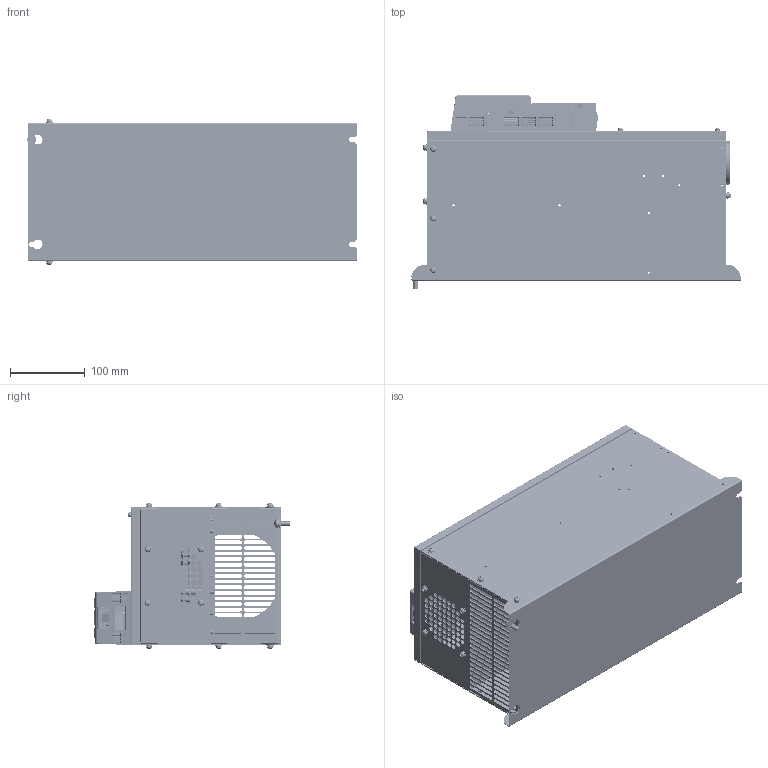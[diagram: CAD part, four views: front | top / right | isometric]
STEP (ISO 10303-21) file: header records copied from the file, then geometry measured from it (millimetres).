
FILE_DESCRIPTION (( 'STEP AP214' ), '1' );
FILE_NAME ('H120-18.5-30kw.STEP', '2022-12-07T08:32:31', ( '微软用户' ), ( '微软中国' ), 'SwSTEP 2.0', 'SolidWorks 2018', '' );
FILE_SCHEMA (( 'AUTOMOTIVE_DESIGN' ));
Length unit declared in the file: millimetre
Products named in the file (76): 覆铝锌板M4XH12的塑胶柱-20191122 - 副本; 葡臏郈啣M4X8腔蹟隊-1-20191122; 樟萇ん; 覆铝锌板M4压铆螺母-20191122_M4压铆螺母; M4XH17腔呿蝶翐; 覆铝锌板风扇组件-24v-20191122; 菁釱2019506; 覆铝锌板风扇固定件-120x120-20191122; m6x16坋趼攫芛蹟隊; ｸｲﾂﾁﾐｿｰ蠶ﾝｶ､-ｷ酲ﾈ-20191122; 蛹諉睫瘍; 菁啣-2019032220190328; 覆铝锌板风道板组件-20200326; 狟傷赽啣2; 覆铝锌板GB823-88十字槽小盘头螺钉M5×12-20191122; 偌瑩瑩攫郪璃-led-2-20190506; 偌瑩瑩攫郪璃-2019031920190328; m4x5籵謂揤穩蹟譫翐; 模具最新更改-卢工-2018031820190328; cross recessed pan head screws gb_GB_CROSS_SCREWS_TYPE1 M6X8-8  H type-S; 寡蝶-20200107; LED偌瑩諷秶啣; PLTBH1.5-3.5-4PIN; m5揤穩櫅譫; JIANPANZUOGAI_4-2018031820190328-002; 覆铝锌板风扇卡槽组件-20191122; LED囀褲俋諶-20190506; ﾓ鋧ｿ LCDﾆﾁ; M4压铆螺母_M4压铆螺母; 覆铝锌板风扇卡槽1-20191122; LED偌瑩諷秶啣-LCD-2-20190506; 黃蕾そ-201904119; 覆铝锌板m4x31盲孔压铆螺母柱-20191122; hex nuts, style 1-grades ab gb_GB_FASTENER_NUT_SNAB1 M4-S; 泂え厙諳-20190506; pan head cross recess screw_iso_ISO 7045 - M2 x 8 - Z - 8N; 覆铝锌板m4x17盲孔压铆螺母柱-20191122; 葡臏郈啣M4X35蹟隊-20191122; M3X3mm腔肣蹟譫-耀撿-led-2-20190506; 諷秶啣郪璃4-20190309-2019031920190328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
Assembly tree (150 placements, depth 4):
  H120-18.5-30kw
    覆铝锌板机箱焊件装配体-20191122
      翋眊极
        葡臏郈啣儂眊01-18.5-30kw-20191122
        覆铝锌板M3压铆螺母-20191122_M4压铆螺母  x4
      覆铝锌板风道板组件-20200326
        葡臏郈啣瑞耋啣-18.5-30kw-20191122
        覆铝锌板m4x17盲孔压铆螺母柱-20191122  x2
        覆铝锌板m4x31盲孔压铆螺母柱-20191122  x2
        M4压铆螺母_M4压铆螺母  x2
        m5揤穩櫅譫  x2
        m4x5籵謂揤穩蹟譫翐  x2
      瑞圮假蚾啣郪璃
        覆铝锌板风扇固定件-120x120-20191122
        覆铝锌板M4压铆螺母-20191122_M4压铆螺母  x4
      葡臏郈啣結瑞え-20191122
      葡臏郈啣崨盄鎢-20191122
      傷赽啣盓傅殤  x2
        傷赽啣盓傅殤
        M4压铆螺母_M4压铆螺母
    狟裔啣爾璃
      葡臏郈啣裔2-18.5-30kw-20191122
      藷裔啣喲啣
    堤瑞啣蚾饜极
      葡臏郈啣斯瑞啣-20191122
      M4压铆螺母_M4压铆螺母  x6
    葡臏郈啣M4X35蹟隊-20191122  x4
    hex nuts, style 1-grades ab gb_GB_FASTENER_NUT_SNAB1 M4-S  x4
    覆铝锌板风扇卡槽组件-20191122
      覆铝锌板风扇卡槽1-20191122
    cross recessed pan head screws gb_GB_CROSS_SCREWS_TYPE1 M6X8-8  H type-S  x3
    覆铝锌板GB823-88十字槽小盘头螺钉M5×12-20191122  x4
    覆铝锌板风扇组件-24v-20191122
      ｸｲﾂﾁﾐｿｰ蠶ﾝｶ､-ｷ酲ﾈ-20191122  x4
    葡臏郈啣M4X8腔蹟隊-1-20191122  x22
    M3X8腔蹟隊-1-20191122  x4
    模具最新更改-卢工-2018031820190328
      ANNIUZUOKE_26-2018031820190328
      JIANPANZUOGAI_4-2018031820190328
      偌瑩瑩攫郪璃-2019031920190328
        俋褲1-2019031920190328
        囀褲1-2019031920190328_湮そ
        阨儒芛-耀撿-20190313-2019031920190328
        寡蝶-20190309-2019031920190328
        菁啣-20190311-2019031920190328
        偌瑩諷秶啣
        M3X3mm腔肣蹟譫-耀撿-20190313-2019031920190328  x2
        諷秶啣郪璃4-20190309-2019031920190328
        pan head cross recess screw_iso_ISO 7045 - M2 x 8 - Z - 8N  x4
        黃蕾そ-201904119
        ﾓ鋧ｿ LCDﾆﾁ
        LED偌瑩諷秶啣
      菁啣-2019032220190328
      菁釱2019506
      樟萇ん  x2
      PLTBH1.5-3.5-4PIN
      JIANPANZUOGAI_4-2018031820190328-002
    狟傷赽啣2
    m6x16坋趼攫芛蹟隊  x2
    M4XH17腔呿蝶翐  x2
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Bounding box: 440.4 x 260.8 x 194.87 mm (x, y, z)
Volume: 1159860.6 mm3; surface area: 1512425.5 mm2
Topology: 139 solids, 139 shells, 10511 faces, 27996 edges, 18483 vertices
Faces by surface type: plane 6022, cylinder 2979, bspline 730, cone 466, torus 222, sphere 92
Entity records: 308500 total; most frequent: CARTESIAN_POINT 93230, ORIENTED_EDGE 44874, DIRECTION 40244, EDGE_CURVE 22437, LINE 15164, VECTOR 15164, VERTEX_POINT 15015, AXIS2_PLACEMENT_3D 12540
